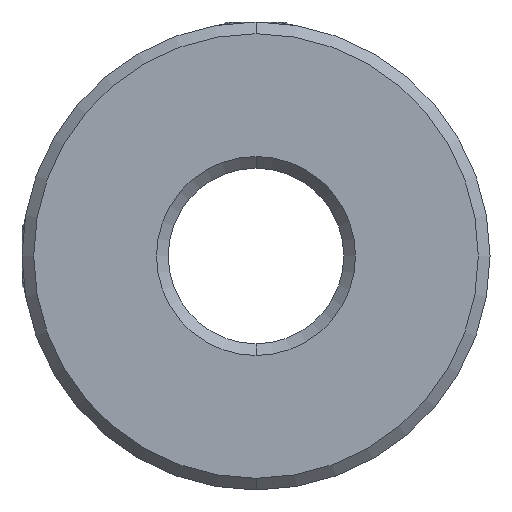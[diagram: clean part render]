
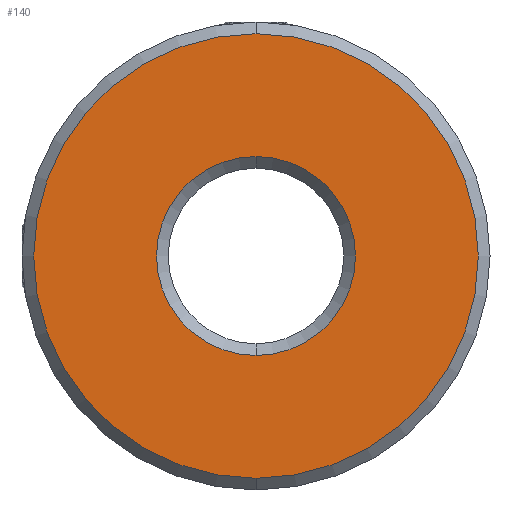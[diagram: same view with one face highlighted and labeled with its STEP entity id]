
A CAD part, front view. The second image highlights one B-rep face of the part: STEP entity #140.
In plain terms, the highlighted planar face has unit normal (0, -1, 0).
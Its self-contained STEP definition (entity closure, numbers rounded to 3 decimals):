
#26 = DIRECTION ( 'NONE',  ( 0., -1., 0. ) ) ;
#34 = VERTEX_POINT ( 'NONE', #1921 ) ;
#40 = DIRECTION ( 'NONE',  ( 0., 0., 1. ) ) ;
#80 = CARTESIAN_POINT ( 'NONE',  ( -10.188, -0.277, -6.754 ) ) ;
#104 = EDGE_CURVE ( 'NONE', #3550, #34, #3434, .T. ) ;
#140 = ADVANCED_FACE ( 'NONE', ( #1662, #2004 ), #3655, .F. ) ;
#178 = DIRECTION ( 'NONE',  ( 0., 0., 1. ) ) ;
#181 = EDGE_LOOP ( 'NONE', ( #714, #1426 ) ) ;
#410 = DIRECTION ( 'NONE',  ( 0., -1., 0. ) ) ;
#429 = CARTESIAN_POINT ( 'NONE',  ( -10.188, -0.277, 15.246 ) ) ;
#488 = AXIS2_PLACEMENT_3D ( 'NONE', #2127, #711, #178 ) ;
#503 = CARTESIAN_POINT ( 'NONE',  ( -10.188, -0.277, 6.846 ) ) ;
#711 = DIRECTION ( 'NONE',  ( 0., 1., 0. ) ) ;
#714 = ORIENTED_EDGE ( 'NONE', *, *, #104, .T. ) ;
#719 = EDGE_LOOP ( 'NONE', ( #2952, #766 ) ) ;
#724 = CARTESIAN_POINT ( 'NONE',  ( -10.188, -0.277, 0.046 ) ) ;
#766 = ORIENTED_EDGE ( 'NONE', *, *, #2995, .T. ) ;
#791 = AXIS2_PLACEMENT_3D ( 'NONE', #3542, #410, #3212 ) ;
#924 = VERTEX_POINT ( 'NONE', #503 ) ;
#1106 = DIRECTION ( 'NONE',  ( 0., 0., 1. ) ) ;
#1203 = CARTESIAN_POINT ( 'NONE',  ( -10.188, -0.277, 0.046 ) ) ;
#1279 = EDGE_CURVE ( 'NONE', #2881, #924, #2979, .T. ) ;
#1404 = CARTESIAN_POINT ( 'NONE',  ( -10.188, -0.277, 0.046 ) ) ;
#1426 = ORIENTED_EDGE ( 'NONE', *, *, #2644, .T. ) ;
#1510 = DIRECTION ( 'NONE',  ( 0., 1., 0. ) ) ;
#1662 = FACE_OUTER_BOUND ( 'NONE', #181, .T. ) ;
#1832 = AXIS2_PLACEMENT_3D ( 'NONE', #724, #26, #3103 ) ;
#1921 = CARTESIAN_POINT ( 'NONE',  ( -10.188, -0.277, -15.154 ) ) ;
#2004 = FACE_BOUND ( 'NONE', #719, .T. ) ;
#2127 = CARTESIAN_POINT ( 'NONE',  ( -10.188, -0.277, 0.046 ) ) ;
#2317 = CIRCLE ( 'NONE', #488, 6.8 ) ;
#2426 = AXIS2_PLACEMENT_3D ( 'NONE', #1404, #3138, #1106 ) ;
#2644 = EDGE_CURVE ( 'NONE', #34, #3550, #3032, .T. ) ;
#2881 = VERTEX_POINT ( 'NONE', #80 ) ;
#2952 = ORIENTED_EDGE ( 'NONE', *, *, #1279, .T. ) ;
#2979 = CIRCLE ( 'NONE', #3691, 6.8 ) ;
#2995 = EDGE_CURVE ( 'NONE', #924, #2881, #2317, .T. ) ;
#3032 = CIRCLE ( 'NONE', #791, 15.2 ) ;
#3103 = DIRECTION ( 'NONE',  ( 0., 0., 1. ) ) ;
#3138 = DIRECTION ( 'NONE',  ( 0., 1., 0. ) ) ;
#3212 = DIRECTION ( 'NONE',  ( 0., 0., 1. ) ) ;
#3434 = CIRCLE ( 'NONE', #1832, 15.2 ) ;
#3542 = CARTESIAN_POINT ( 'NONE',  ( -10.188, -0.277, 0.046 ) ) ;
#3550 = VERTEX_POINT ( 'NONE', #429 ) ;
#3655 = PLANE ( 'NONE',  #2426 ) ;
#3691 = AXIS2_PLACEMENT_3D ( 'NONE', #1203, #1510, #40 ) ;
